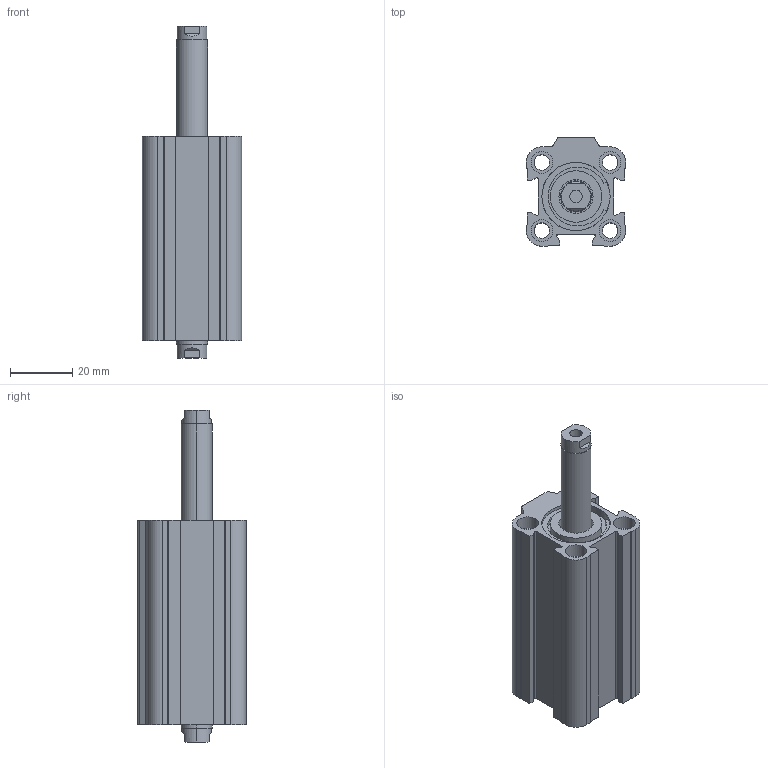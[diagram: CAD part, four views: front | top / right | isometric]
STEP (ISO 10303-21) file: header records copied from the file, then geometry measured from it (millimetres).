
FILE_DESCRIPTION((''),'2;1');
FILE_NAME('D11M40200030.stp','2010-02-13T15:38:26',('B. Petkovic 2010'),('AZ PNEUMATICA S.r.l.'),'Mechanical Desktop 2006','Mechanical Desktop 2006','Via Marco Biagi 6, I-20020 Misinto(MI) Italy, azpneu@tin.it');
FILE_SCHEMA(('CONFIG_CONTROL_DESIGN'));
Length unit declared in the file: millimetre
Products named in the file (2): D11M40200030; CORSA BREVE
Assembly tree (1 placements, depth 2):
  D11M40200030
    CORSA BREVE
Bounding box: 32 x 35 x 107 mm (x, y, z)
Volume: 56107.7 mm3; surface area: 18635.2 mm2
Topology: 1 solids, 1 shells, 174 faces, 428 edges, 280 vertices
Faces by surface type: cylinder 95, plane 79
Entity records: 5317 total; most frequent: DIRECTION 968, CARTESIAN_POINT 884, ORIENTED_EDGE 856, EDGE_CURVE 428, AXIS2_PLACEMENT_3D 364, VERTEX_POINT 280, VECTOR 240, LINE 240
